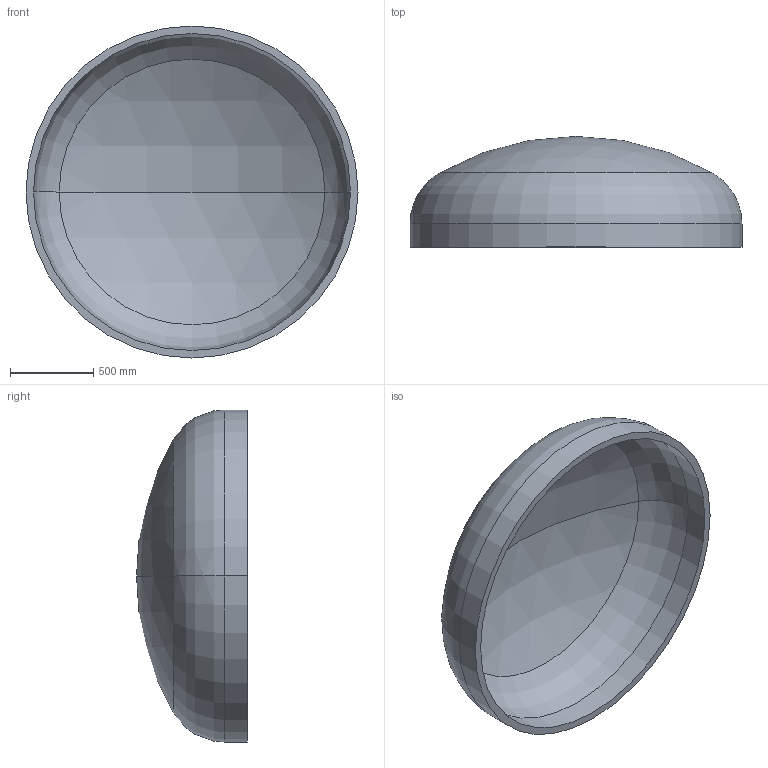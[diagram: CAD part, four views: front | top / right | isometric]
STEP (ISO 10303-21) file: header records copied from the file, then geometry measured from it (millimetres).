
FILE_DESCRIPTION (( 'STEP AP203' ), '1' );
FILE_NAME ('DIN 28013 Korbbogenform_-_Boden DIN 28013 - 2000 x 140 - I - s=45.step', '2016-07-01T13:53:50', ( '' ), ( '' ), 'SwSTEP 2.0', 'SolidWorks 2013', '' );
FILE_SCHEMA (( 'CONFIG_CONTROL_DESIGN' ));
Length unit declared in the file: millimetre
Products named in the file (1): DIN 28013 Korbbogenform_-_Boden DIN 28013 - 2000 x 140 - I - s=45
Bounding box: 2000 x 667.83 x 2000 mm (x, y, z)
Volume: 229032429.8 mm3; surface area: 10459838.8 mm2
Topology: 1 solids, 1 shells, 13 faces, 24 edges, 14 vertices
Faces by surface type: torus 4, cylinder 4, sphere 4, plane 1
Entity records: 407 total; most frequent: DIRECTION 72, CARTESIAN_POINT 52, ORIENTED_EDGE 48, AXIS2_PLACEMENT_3D 34, EDGE_CURVE 24, CIRCLE 20, VERTEX_POINT 14, EDGE_LOOP 14
